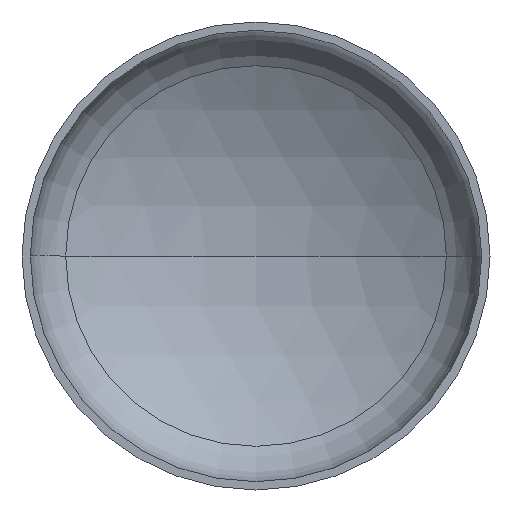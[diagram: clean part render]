
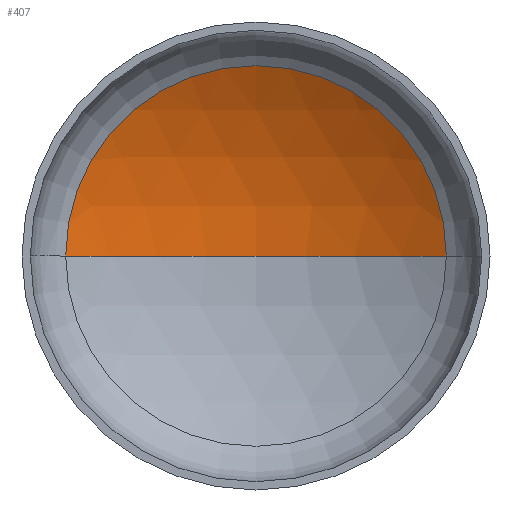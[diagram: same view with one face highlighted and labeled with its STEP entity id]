
A CAD part, front view. The second image highlights one B-rep face of the part: STEP entity #407.
In plain terms, the highlighted spherical face has radius 2240 mm.
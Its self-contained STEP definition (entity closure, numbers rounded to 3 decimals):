
#4 = DIRECTION ( 'NONE',  ( -1., 0., 0. ) ) ;
#5 = DIRECTION ( 'NONE',  ( 1., 0., 0. ) ) ;
#11 = CIRCLE ( 'NONE', #20, 2240. ) ;
#15 = DIRECTION ( 'NONE',  ( 0., 0., 1. ) ) ;
#19 = AXIS2_PLACEMENT_3D ( 'NONE', #27, #15, #5 ) ;
#20 = AXIS2_PLACEMENT_3D ( 'NONE', #112, #314, #4 ) ;
#21 = AXIS2_PLACEMENT_3D ( 'NONE', #211, #191, #192 ) ;
#24 = SPHERICAL_SURFACE ( 'NONE', #353, 2240. ) ;
#27 = CARTESIAN_POINT ( 'NONE',  ( 0., -1408.749, 0. ) ) ;
#47 = EDGE_LOOP ( 'NONE', ( #193, #187, #133 ) ) ;
#71 = EDGE_CURVE ( 'NONE', #169, #86, #153, .T. ) ;
#72 = EDGE_CURVE ( 'NONE', #92, #169, #11, .T. ) ;
#73 = EDGE_CURVE ( 'NONE', #92, #86, #293, .T. ) ;
#86 = VERTEX_POINT ( 'NONE', #287 ) ;
#92 = VERTEX_POINT ( 'NONE', #190 ) ;
#99 = DIRECTION ( 'NONE',  ( 0., 0., -1. ) ) ;
#112 = CARTESIAN_POINT ( 'NONE',  ( 0., -1408.749, 0. ) ) ;
#133 = ORIENTED_EDGE ( 'NONE', *, *, #71, .T. ) ;
#153 = CIRCLE ( 'NONE', #21, 1138.564 ) ;
#169 = VERTEX_POINT ( 'NONE', #266 ) ;
#170 = FACE_OUTER_BOUND ( 'NONE', #47, .T. ) ;
#187 = ORIENTED_EDGE ( 'NONE', *, *, #72, .T. ) ;
#190 = CARTESIAN_POINT ( 'NONE',  ( 0., 831.251, 0. ) ) ;
#191 = DIRECTION ( 'NONE',  ( 0., -1., 0. ) ) ;
#192 = DIRECTION ( 'NONE',  ( 1., 0., 0. ) ) ;
#193 = ORIENTED_EDGE ( 'NONE', *, *, #73, .F. ) ;
#204 = CARTESIAN_POINT ( 'NONE',  ( 0., -1408.749, 0. ) ) ;
#211 = CARTESIAN_POINT ( 'NONE',  ( 0., 520.311, 0. ) ) ;
#266 = CARTESIAN_POINT ( 'NONE',  ( 1138.564, 520.311, 0. ) ) ;
#287 = CARTESIAN_POINT ( 'NONE',  ( -1138.564, 520.311, 0. ) ) ;
#293 = CIRCLE ( 'NONE', #19, 2240. ) ;
#314 = DIRECTION ( 'NONE',  ( 0., 0., -1. ) ) ;
#319 = DIRECTION ( 'NONE',  ( -1., 0., 0. ) ) ;
#353 = AXIS2_PLACEMENT_3D ( 'NONE', #204, #99, #319 ) ;
#407 = ADVANCED_FACE ( 'NONE', ( #170 ), #24, .F. ) ;
